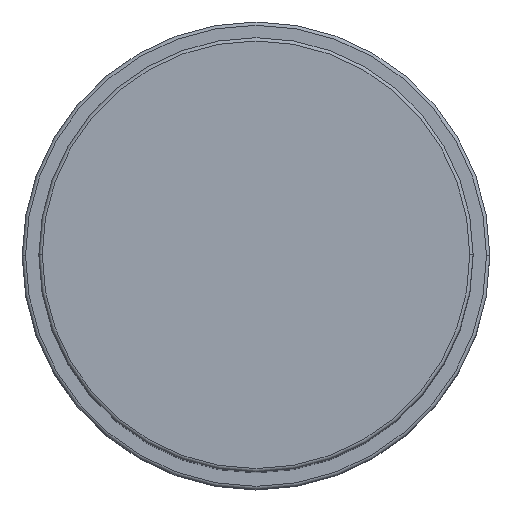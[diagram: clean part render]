
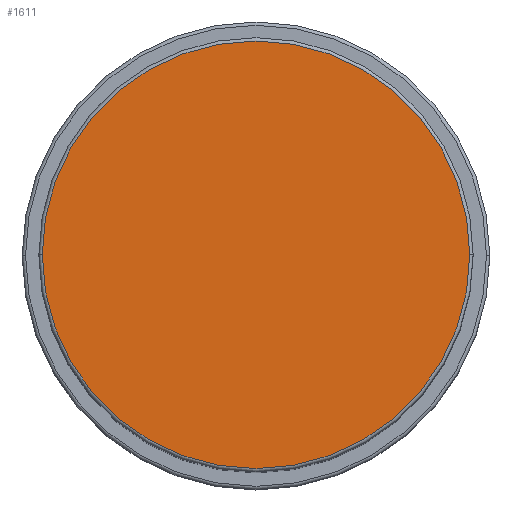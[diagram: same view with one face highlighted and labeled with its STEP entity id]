
A CAD part, top view. The second image highlights one B-rep face of the part: STEP entity #1611.
In plain terms, the highlighted planar face has unit normal (0, 0, 1).
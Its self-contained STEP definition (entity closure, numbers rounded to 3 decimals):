
#61 = ORIENTED_EDGE ( 'NONE', *, *, #618, .T. ) ;
#70 = CARTESIAN_POINT ( 'NONE',  ( 0., 0., 117. ) ) ;
#83 = AXIS2_PLACEMENT_3D ( 'NONE', #129, #394, #896 ) ;
#99 = AXIS2_PLACEMENT_3D ( 'NONE', #1440, #302, #1200 ) ;
#129 = CARTESIAN_POINT ( 'NONE',  ( 0., 0., 117. ) ) ;
#134 = PLANE ( 'NONE',  #83 ) ;
#267 = EDGE_LOOP ( 'NONE', ( #61, #1582 ) ) ;
#302 = DIRECTION ( 'NONE',  ( 0., 0., 1. ) ) ;
#394 = DIRECTION ( 'NONE',  ( 0., 0., 1. ) ) ;
#479 = FACE_OUTER_BOUND ( 'NONE', #267, .T. ) ;
#552 = EDGE_CURVE ( 'NONE', #1370, #1645, #702, .T. ) ;
#555 = CARTESIAN_POINT ( 'NONE',  ( 32., 0., 117. ) ) ;
#618 = EDGE_CURVE ( 'NONE', #1645, #1370, #667, .T. ) ;
#667 = CIRCLE ( 'NONE', #949, 32. ) ;
#702 = CIRCLE ( 'NONE', #99, 32. ) ;
#896 = DIRECTION ( 'NONE',  ( 1., 0., 0. ) ) ;
#937 = CARTESIAN_POINT ( 'NONE',  ( -32., 0., 117. ) ) ;
#949 = AXIS2_PLACEMENT_3D ( 'NONE', #70, #1217, #1354 ) ;
#1200 = DIRECTION ( 'NONE',  ( 1., 0., 0. ) ) ;
#1217 = DIRECTION ( 'NONE',  ( 0., 0., 1. ) ) ;
#1354 = DIRECTION ( 'NONE',  ( 1., 0., 0. ) ) ;
#1370 = VERTEX_POINT ( 'NONE', #937 ) ;
#1440 = CARTESIAN_POINT ( 'NONE',  ( 0., 0., 117. ) ) ;
#1582 = ORIENTED_EDGE ( 'NONE', *, *, #552, .T. ) ;
#1611 = ADVANCED_FACE ( 'NONE', ( #479 ), #134, .T. ) ;
#1645 = VERTEX_POINT ( 'NONE', #555 ) ;
